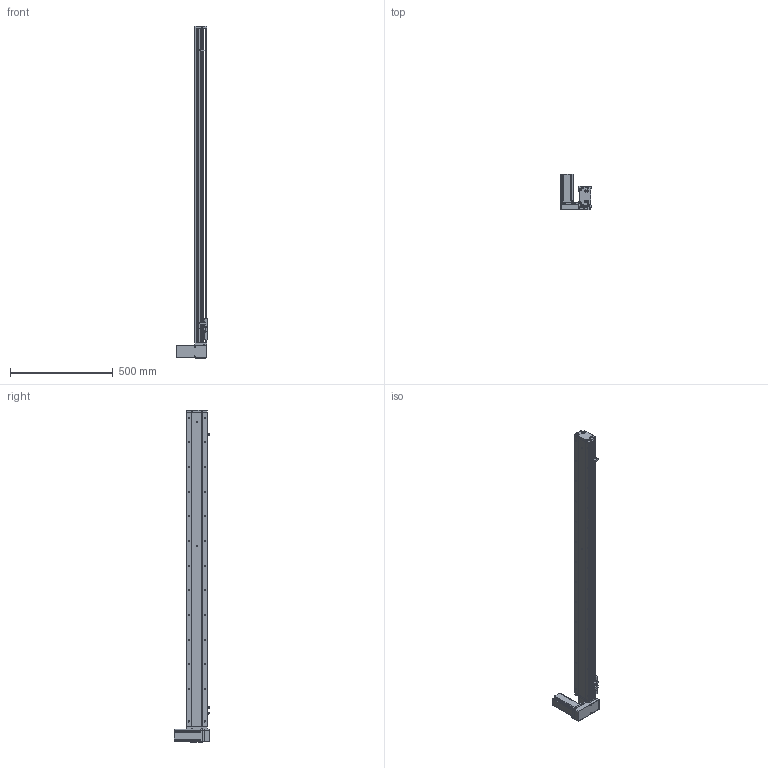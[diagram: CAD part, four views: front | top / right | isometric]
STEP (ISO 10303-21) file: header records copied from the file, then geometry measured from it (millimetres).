
FILE_DESCRIPTION (( 'STEP AP214' ), '1' );
FILE_NAME ('KSD100B-S1350-MRD-CM.STEP', '2019-11-11T08:16:33', ( '微软用户' ), ( '微软中国' ), 'SwSTEP 2.0', 'SolidWorks 2014', '' );
FILE_SCHEMA (( 'AUTOMOTIVE_DESIGN' ));
Length unit declared in the file: millimetre
Products named in the file (12): 悵誘欶奻狟殏; 100宽马达安装板连板上下折丝杆同步带; 台达ECMA－C20604AS伺服电机; U倰嫖萇EEㄜSX672; 覜茼え100遵圉猾敕; 100宽防尘板1350行程-同步带; 100宽马达安装板同步带右; 100宽同步带安装板半封闭; 100宽马达安装板同步带; 100遵傷啣肮祭湍; 100宽底板半封闭同步带1350行程; KSD100B-S1350-MRD-CM
Assembly tree (13 placements, depth 2):
  KSD100B-S1350-MRD-CM
    100宽底板半封闭同步带1350行程
    100遵傷啣肮祭湍
    100宽马达安装板同步带
    100宽同步带安装板半封闭
    100宽马达安装板同步带右
    100宽防尘板1350行程-同步带
    覜茼え100遵圉猾敕
    U倰嫖萇EEㄜSX672  x3
    台达ECMA－C20604AS伺服电机
    100宽马达安装板连板上下折丝杆同步带
    悵誘欶奻狟殏
Bounding box: 148 x 174.7 x 1615 mm (x, y, z)
Volume: 3492274.8 mm3; surface area: 1179601.2 mm2
Topology: 14 solids, 14 shells, 1571 faces, 4438 edges, 2807 vertices
Faces by surface type: cylinder 805, plane 603, cone 163
Entity records: 56779 total; most frequent: CARTESIAN_POINT 11706, DIRECTION 7726, ORIENTED_EDGE 7456, EDGE_CURVE 3728, AXIS2_PLACEMENT_3D 2837, VERTEX_POINT 2431, VECTOR 2052, LINE 2052
